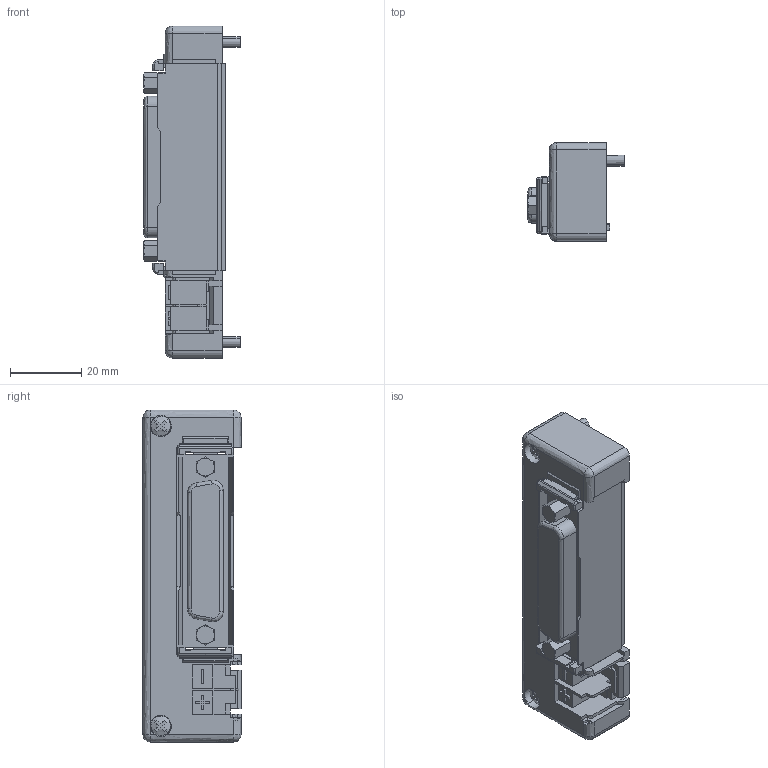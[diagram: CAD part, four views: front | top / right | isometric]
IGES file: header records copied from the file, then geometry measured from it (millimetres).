
Start section: ------------------------------------------------------------------------
Global section: file name: D:\ICADMX\tmp\trans3d_spg\CVICAD46.2900.FZX-D2x0-E_31118.igs; native system: spGate; preprocessor: ver12.6.6; author: Unknown; organization: Unknown; date: 200902.143727; units: millimetre
Bounding box: 27 x 27.5 x 93 mm (x, y, z)
Volume: 34571.2 mm3; surface area: 14506.7 mm2
Topology: 2 solids, 2 shells, 397 faces, 1136 edges, 728 vertices
Faces by surface type: bspline 397
